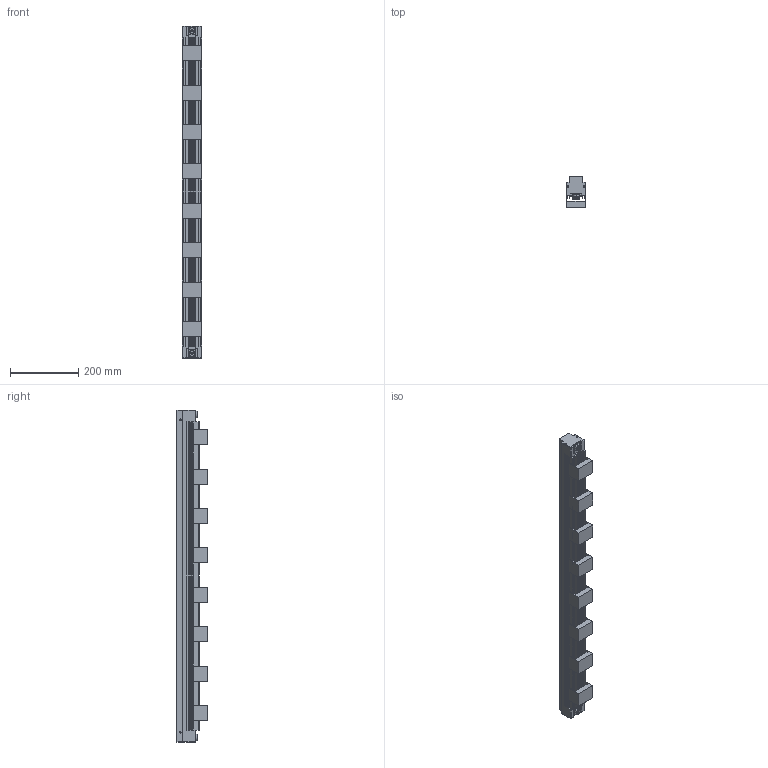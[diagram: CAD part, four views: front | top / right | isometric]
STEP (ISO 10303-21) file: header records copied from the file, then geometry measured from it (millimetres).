
FILE_DESCRIPTION((''),'2;1');
FILE_NAME('MV-LTHS-900-W','2019-09-19T',('win7'),(''),'PRO/ENGINEER BY PARAMETRIC TECHNOLOGY CORPORATION, 2010100','PRO/ENGINEER BY PARAMETRIC TECHNOLOGY CORPORATION, 2010100','');
FILE_SCHEMA(('CONFIG_CONTROL_DESIGN'));
Length unit declared in the file: millimetre
Products named in the file (1): MV-LTHS-900-W
Bounding box: 58 x 90.1 x 970 mm (x, y, z)
Volume: 3194679.4 mm3; surface area: 515328.1 mm2
Topology: 1 solids, 10 shells, 451 faces, 1194 edges, 745 vertices
Faces by surface type: plane 316, cylinder 105, cone 30
Entity records: 13626 total; most frequent: CARTESIAN_POINT 2374, DIRECTION 2310, ORIENTED_EDGE 2296, EDGE_CURVE 1168, VECTOR 928, LINE 928, VERTEX_POINT 745, AXIS2_PLACEMENT_3D 691
